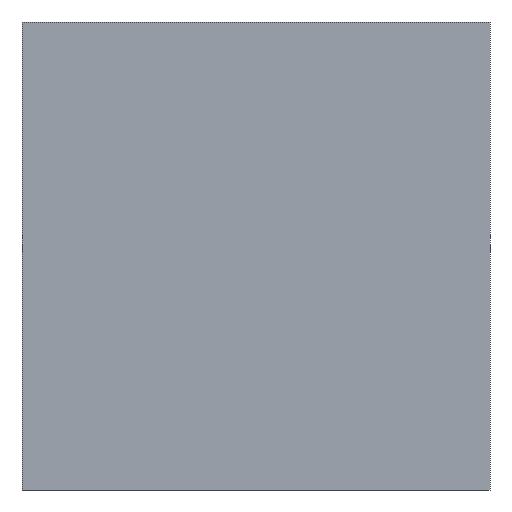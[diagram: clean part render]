
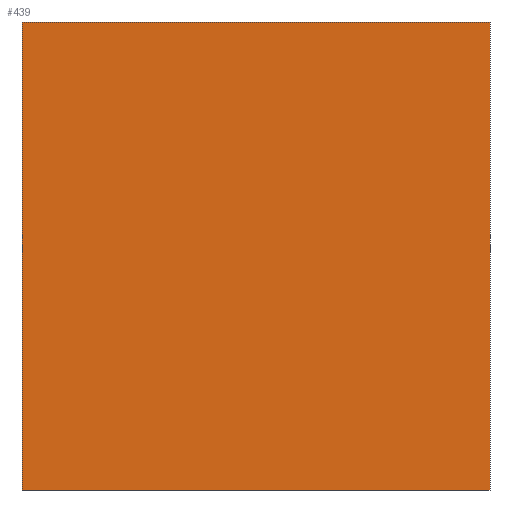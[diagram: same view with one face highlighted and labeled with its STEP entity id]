
A CAD part, left-side view. The second image highlights one B-rep face of the part: STEP entity #439.
In plain terms, the highlighted planar face has unit normal (-1, 0, 0).
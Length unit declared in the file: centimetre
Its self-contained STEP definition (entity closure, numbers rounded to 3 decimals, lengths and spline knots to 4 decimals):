
#29 = DIRECTION ( 'NONE',  ( 1., 0., 0. ) ) ;
#47 = EDGE_CURVE ( 'NONE', #350, #257, #450, .T. ) ;
#55 = CARTESIAN_POINT ( 'NONE',  ( 0., 1000., 1000. ) ) ;
#56 = DIRECTION ( 'NONE',  ( 0., -1., 0. ) ) ;
#103 = LINE ( 'NONE', #513, #381 ) ;
#131 = CARTESIAN_POINT ( 'NONE',  ( 0., 0., 0. ) ) ;
#135 = EDGE_CURVE ( 'NONE', #496, #257, #193, .T. ) ;
#136 = CARTESIAN_POINT ( 'NONE',  ( 0., 1000., 0. ) ) ;
#144 = ORIENTED_EDGE ( 'NONE', *, *, #504, .T. ) ;
#167 = PLANE ( 'NONE',  #435 ) ;
#168 = EDGE_CURVE ( 'NONE', #398, #496, #103, .T. ) ;
#176 = ORIENTED_EDGE ( 'NONE', *, *, #47, .T. ) ;
#191 = DIRECTION ( 'NONE',  ( 0., 0., -1. ) ) ;
#193 = LINE ( 'NONE', #333, #328 ) ;
#195 = LINE ( 'NONE', #55, #484 ) ;
#201 = DIRECTION ( 'NONE',  ( 0., 0., -1. ) ) ;
#205 = VECTOR ( 'NONE', #56, 100. ) ;
#210 = CARTESIAN_POINT ( 'NONE',  ( 0., 1000., 1000. ) ) ;
#257 = VERTEX_POINT ( 'NONE', #131 ) ;
#270 = EDGE_LOOP ( 'NONE', ( #176, #500, #324, #144 ) ) ;
#283 = CARTESIAN_POINT ( 'NONE',  ( 0., 1000., 0. ) ) ;
#324 = ORIENTED_EDGE ( 'NONE', *, *, #168, .F. ) ;
#328 = VECTOR ( 'NONE', #201, 100. ) ;
#333 = CARTESIAN_POINT ( 'NONE',  ( 0., 0., 1000. ) ) ;
#350 = VERTEX_POINT ( 'NONE', #136 ) ;
#373 = DIRECTION ( 'NONE',  ( 0., -1., 0. ) ) ;
#381 = VECTOR ( 'NONE', #373, 100. ) ;
#386 = CARTESIAN_POINT ( 'NONE',  ( 0., 1000., 1000. ) ) ;
#387 = DIRECTION ( 'NONE',  ( 0., 0., -1. ) ) ;
#398 = VERTEX_POINT ( 'NONE', #210 ) ;
#432 = FACE_OUTER_BOUND ( 'NONE', #270, .T. ) ;
#435 = AXIS2_PLACEMENT_3D ( 'NONE', #386, #29, #387 ) ;
#439 = ADVANCED_FACE ( 'NONE', ( #432 ), #167, .F. ) ;
#450 = LINE ( 'NONE', #283, #205 ) ;
#470 = CARTESIAN_POINT ( 'NONE',  ( 0., 0., 1000. ) ) ;
#484 = VECTOR ( 'NONE', #191, 100. ) ;
#496 = VERTEX_POINT ( 'NONE', #470 ) ;
#500 = ORIENTED_EDGE ( 'NONE', *, *, #135, .F. ) ;
#504 = EDGE_CURVE ( 'NONE', #398, #350, #195, .T. ) ;
#513 = CARTESIAN_POINT ( 'NONE',  ( 0., 1000., 1000. ) ) ;
